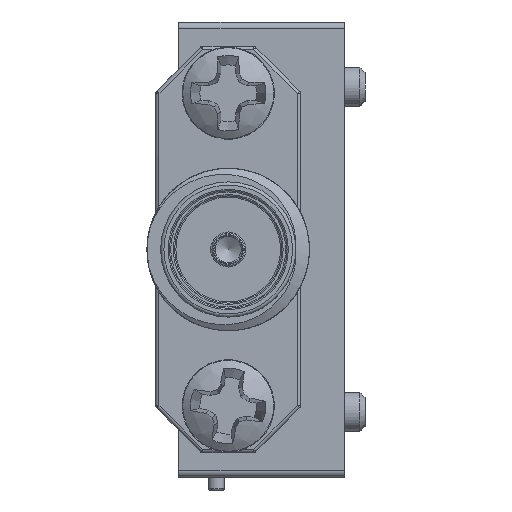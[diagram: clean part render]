
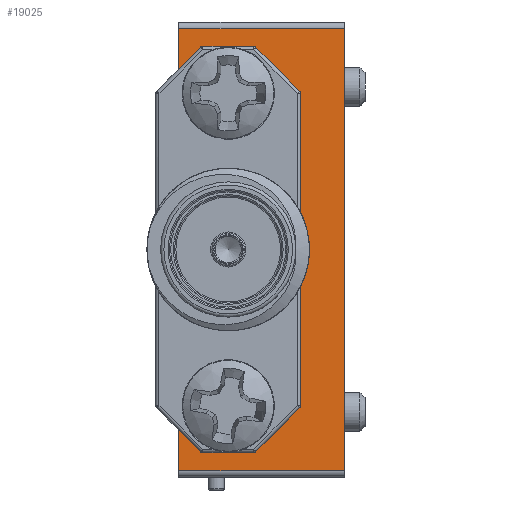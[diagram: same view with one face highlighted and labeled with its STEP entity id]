
A CAD part, left-side view. The second image highlights one B-rep face of the part: STEP entity #19025.
In plain terms, the highlighted planar face has unit normal (-1, 0, 0).
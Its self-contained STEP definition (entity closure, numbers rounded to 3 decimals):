
#604 = EDGE_LOOP ( 'NONE', ( #1539, #32223, #35230, #4746, #9606, #3408, #20251, #11136 ) ) ;
#764 = CARTESIAN_POINT ( 'NONE',  ( 0., -7.239, 4.064 ) ) ;
#1539 = ORIENTED_EDGE ( 'NONE', *, *, #15345, .F. ) ;
#1818 = EDGE_LOOP ( 'NONE', ( #44451 ) ) ;
#1856 = VERTEX_POINT ( 'NONE', #764 ) ;
#2170 = VECTOR ( 'NONE', #7022, 1000. ) ;
#2375 = EDGE_CURVE ( 'NONE', #38197, #38197, #33252, .T. ) ;
#3010 = VERTEX_POINT ( 'NONE', #3246 ) ;
#3246 = CARTESIAN_POINT ( 'NONE',  ( 0., -2.692, -9.589 ) ) ;
#3408 = ORIENTED_EDGE ( 'NONE', *, *, #31651, .T. ) ;
#4332 = FACE_OUTER_BOUND ( 'NONE', #604, .T. ) ;
#4600 = DIRECTION ( 'NONE',  ( 1., 0., 0. ) ) ;
#4746 = ORIENTED_EDGE ( 'NONE', *, *, #39282, .T. ) ;
#7022 = DIRECTION ( 'NONE',  ( 0., 0., 1. ) ) ;
#7164 = VECTOR ( 'NONE', #22617, 1000. ) ;
#7238 = CARTESIAN_POINT ( 'NONE',  ( 0., -7.239, 4.318 ) ) ;
#7300 = EDGE_CURVE ( 'NONE', #3010, #3010, #42810, .T. ) ;
#7381 = CARTESIAN_POINT ( 'NONE',  ( 0., -4.521, -9.449 ) ) ;
#8090 = VECTOR ( 'NONE', #50246, 1000. ) ;
#8731 = CARTESIAN_POINT ( 'NONE',  ( 0., -7.239, -13.208 ) ) ;
#8946 = DIRECTION ( 'NONE',  ( 0., -1., 0. ) ) ;
#8966 = FACE_BOUND ( 'NONE', #1818, .T. ) ;
#9606 = ORIENTED_EDGE ( 'NONE', *, *, #43689, .F. ) ;
#9760 = EDGE_LOOP ( 'NONE', ( #11293 ) ) ;
#10230 = AXIS2_PLACEMENT_3D ( 'NONE', #45178, #26370, #42085 ) ;
#10798 = LINE ( 'NONE', #47063, #47944 ) ;
#11136 = ORIENTED_EDGE ( 'NONE', *, *, #35117, .T. ) ;
#11199 = VECTOR ( 'NONE', #16322, 1000. ) ;
#11226 = CARTESIAN_POINT ( 'NONE',  ( 0., -2.692, 2.629 ) ) ;
#11293 = ORIENTED_EDGE ( 'NONE', *, *, #2375, .F. ) ;
#12330 = VERTEX_POINT ( 'NONE', #31543 ) ;
#12500 = CARTESIAN_POINT ( 'NONE',  ( 0., -0.762, 0.051 ) ) ;
#13892 = CARTESIAN_POINT ( 'NONE',  ( 0., -7.239, 0.305 ) ) ;
#15345 = EDGE_CURVE ( 'NONE', #19302, #28056, #16581, .T. ) ;
#15899 = DIRECTION ( 'NONE',  ( 0., 0., 1. ) ) ;
#16322 = DIRECTION ( 'NONE',  ( 0., 0., 1. ) ) ;
#16581 = LINE ( 'NONE', #19638, #11199 ) ;
#16698 = FACE_BOUND ( 'NONE', #9760, .T. ) ;
#18384 = CARTESIAN_POINT ( 'NONE',  ( 0., -0.762, -9.449 ) ) ;
#19025 = ADVANCED_FACE ( 'NONE', ( #8966, #16698, #4332 ), #40289, .F. ) ;
#19302 = VERTEX_POINT ( 'NONE', #7381 ) ;
#19318 = LINE ( 'NONE', #7238, #8090 ) ;
#19638 = CARTESIAN_POINT ( 'NONE',  ( 0., -4.521, -9.195 ) ) ;
#19744 = LINE ( 'NONE', #40029, #28003 ) ;
#20251 = ORIENTED_EDGE ( 'NONE', *, *, #35523, .F. ) ;
#21198 = VERTEX_POINT ( 'NONE', #37926 ) ;
#22617 = DIRECTION ( 'NONE',  ( 0., -1., 0. ) ) ;
#22618 = DIRECTION ( 'NONE',  ( 0., 1., 0. ) ) ;
#22781 = VERTEX_POINT ( 'NONE', #26180 ) ;
#24382 = EDGE_CURVE ( 'NONE', #19302, #30212, #10798, .T. ) ;
#26148 = EDGE_CURVE ( 'NONE', #22781, #30212, #34288, .T. ) ;
#26180 = CARTESIAN_POINT ( 'NONE',  ( 0., -0.762, -13.208 ) ) ;
#26370 = DIRECTION ( 'NONE',  ( -1., 0., 0. ) ) ;
#26548 = DIRECTION ( 'NONE',  ( 0., 1., 0. ) ) ;
#27186 = AXIS2_PLACEMENT_3D ( 'NONE', #35427, #47553, #15899 ) ;
#28003 = VECTOR ( 'NONE', #8946, 1000. ) ;
#28056 = VERTEX_POINT ( 'NONE', #32381 ) ;
#28172 = DIRECTION ( 'NONE',  ( 0., 0., 1. ) ) ;
#30183 = CARTESIAN_POINT ( 'NONE',  ( 0., -7.239, 4.064 ) ) ;
#30212 = VERTEX_POINT ( 'NONE', #18384 ) ;
#30458 = AXIS2_PLACEMENT_3D ( 'NONE', #43678, #4600, #32874 ) ;
#31543 = CARTESIAN_POINT ( 'NONE',  ( 0., -0.762, 4.064 ) ) ;
#31651 = EDGE_CURVE ( 'NONE', #1856, #12330, #38362, .T. ) ;
#32223 = ORIENTED_EDGE ( 'NONE', *, *, #24382, .T. ) ;
#32381 = CARTESIAN_POINT ( 'NONE',  ( 0., -4.521, 0.305 ) ) ;
#32874 = DIRECTION ( 'NONE',  ( 0., 0., -1. ) ) ;
#33252 = CIRCLE ( 'NONE', #10230, 1.092 ) ;
#34288 = LINE ( 'NONE', #34776, #2170 ) ;
#34776 = CARTESIAN_POINT ( 'NONE',  ( 0., -0.762, -13.462 ) ) ;
#35117 = EDGE_CURVE ( 'NONE', #21198, #28056, #41138, .T. ) ;
#35230 = ORIENTED_EDGE ( 'NONE', *, *, #26148, .F. ) ;
#35427 = CARTESIAN_POINT ( 'NONE',  ( 0., -2.692, -10.681 ) ) ;
#35523 = EDGE_CURVE ( 'NONE', #21198, #12330, #47775, .T. ) ;
#36419 = VECTOR ( 'NONE', #26548, 1000. ) ;
#37926 = CARTESIAN_POINT ( 'NONE',  ( 0., -0.762, 0.305 ) ) ;
#38197 = VERTEX_POINT ( 'NONE', #11226 ) ;
#38362 = LINE ( 'NONE', #30183, #36419 ) ;
#38420 = VECTOR ( 'NONE', #28172, 1000. ) ;
#39282 = EDGE_CURVE ( 'NONE', #22781, #47042, #19744, .T. ) ;
#40029 = CARTESIAN_POINT ( 'NONE',  ( 0., -7.239, -13.208 ) ) ;
#40289 = PLANE ( 'NONE',  #30458 ) ;
#41138 = LINE ( 'NONE', #13892, #7164 ) ;
#42085 = DIRECTION ( 'NONE',  ( 0., 0., 1. ) ) ;
#42810 = CIRCLE ( 'NONE', #27186, 1.092 ) ;
#43678 = CARTESIAN_POINT ( 'NONE',  ( 0., -7.239, 4.318 ) ) ;
#43689 = EDGE_CURVE ( 'NONE', #1856, #47042, #19318, .T. ) ;
#44451 = ORIENTED_EDGE ( 'NONE', *, *, #7300, .F. ) ;
#45178 = CARTESIAN_POINT ( 'NONE',  ( 0., -2.692, 1.537 ) ) ;
#47042 = VERTEX_POINT ( 'NONE', #8731 ) ;
#47063 = CARTESIAN_POINT ( 'NONE',  ( 0., -7.239, -9.449 ) ) ;
#47553 = DIRECTION ( 'NONE',  ( -1., 0., 0. ) ) ;
#47775 = LINE ( 'NONE', #12500, #38420 ) ;
#47944 = VECTOR ( 'NONE', #22618, 1000. ) ;
#50246 = DIRECTION ( 'NONE',  ( 0., 0., -1. ) ) ;
